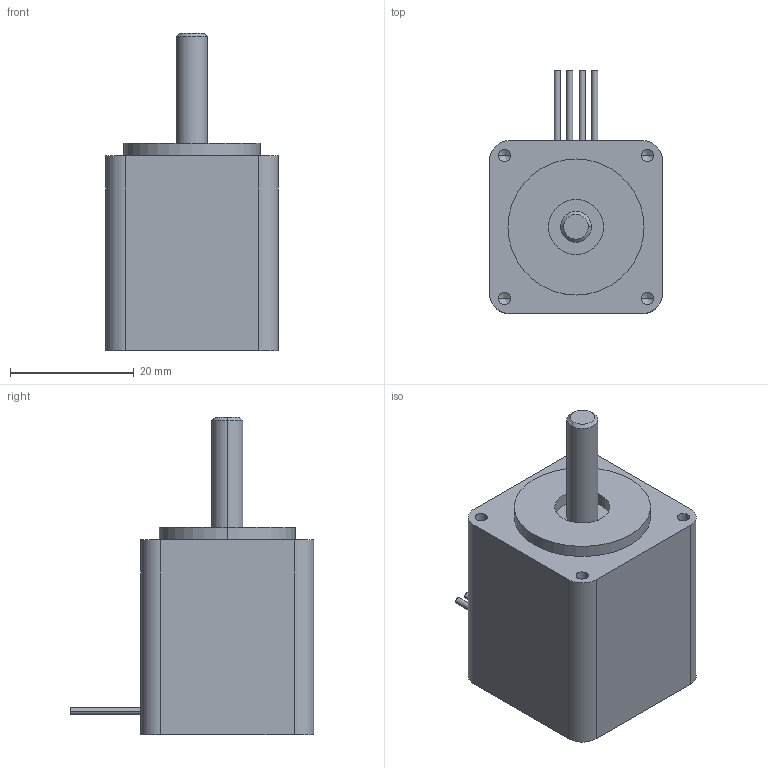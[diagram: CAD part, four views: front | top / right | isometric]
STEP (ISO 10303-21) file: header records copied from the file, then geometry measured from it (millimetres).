
FILE_DESCRIPTION((''),'2;1');
FILE_NAME('C:\Documents and Settings\rbadgerow\Desktop\webmodelmain\web step 3d\211-13 052605\211-13 s.stp','2005-05-27T09:45:25',('rbadgerow'),(''),'Autodesk Inventor 9','Autodesk Inventor 9','');
FILE_SCHEMA(('AUTOMOTIVE_DESIGN { 1 0 10303 214 1 1 1 1 }'));
Length unit declared in the file: inch
Products named in the file (1): 211-13 s
Bounding box: 27.94 x 39.37 x 51.31 mm (x, y, z)
Volume: 25319.7 mm3; surface area: 5625.1 mm2
Topology: 1 solids, 1 shells, 52 faces, 116 edges, 70 vertices
Faces by surface type: cylinder 20, bspline 16, plane 14, cone 2
Entity records: 1635 total; most frequent: CARTESIAN_POINT 503, DIRECTION 240, ORIENTED_EDGE 216, EDGE_CURVE 108, AXIS2_PLACEMENT_3D 95, VERTEX_POINT 70, EDGE_LOOP 64, CIRCLE 58
